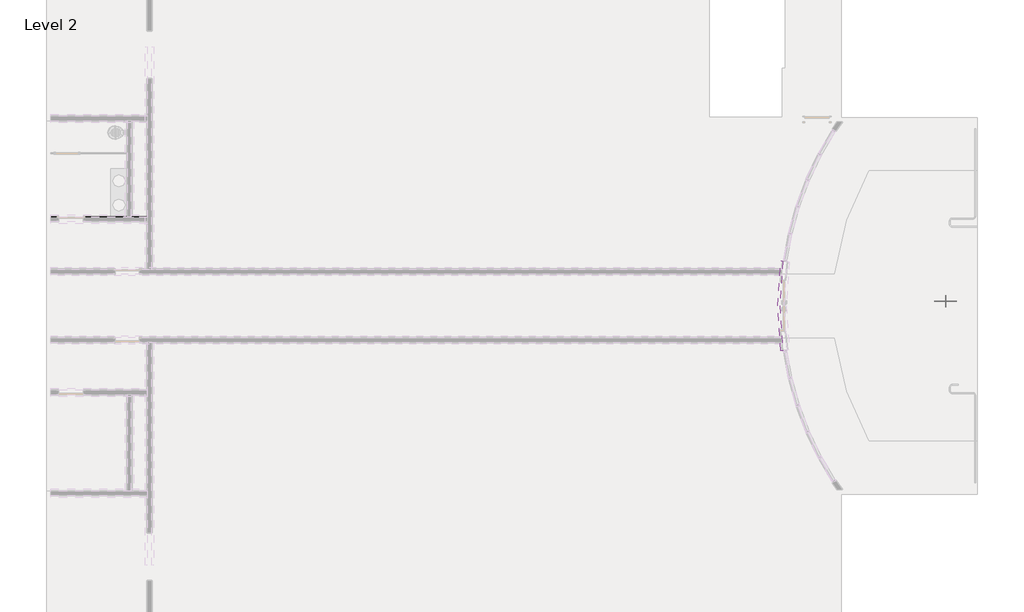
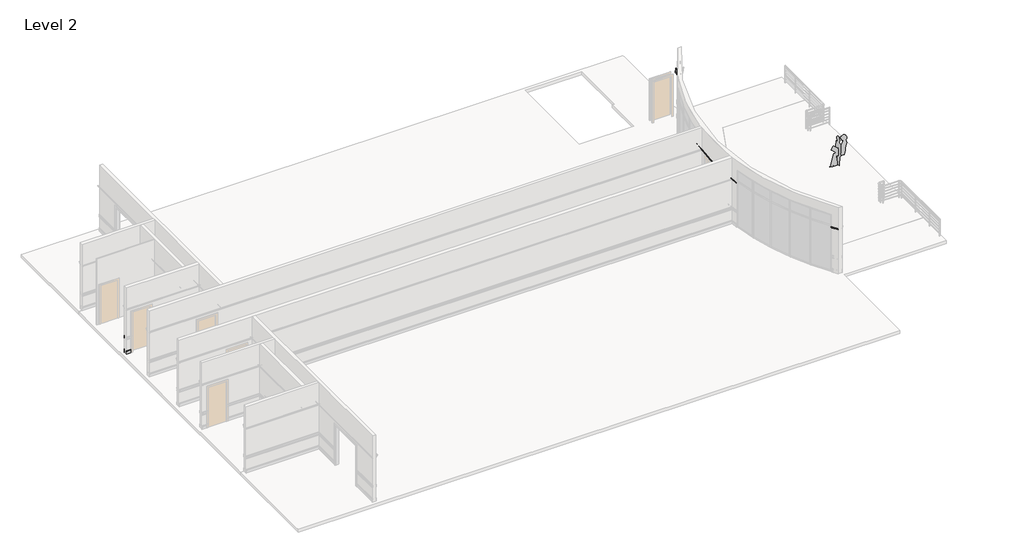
# One storey, part 13 of 14: 5 proxies.
"""IFC4 building model written with IfcOpenShell, lengths in millimetres."""

from ifc_helpers import new_model, si_unit, point, frame, frame_2d, origin, place, context, project, spatial, polyline, circle_curve, ellipse_curve, trimmed, segment, composite_curve, outline, extrude, transform, mapped, element, save
from ifc_brep_helpers import plane_surface, cylinder_surface, revolved_surface, advanced_brep
from components import rpc_female_d179ddfe

model = new_model("IFC4")

# Units and contexts
model_context = context("Model", 3, world=origin())
ifc_project = project(units=[si_unit("LENGTHUNIT", "METRE", prefix="MILLI")], contexts=[model_context])

# Site, building, storey
site = spatial("IfcSite", under=ifc_project)
building = spatial("IfcBuilding", under=site)
storey = spatial("IfcBuildingStorey", under=building, Name="Level 2", Elevation=3657.6)

# Proxies
placement = place(None, origin())
element("IfcBuildingElementProxy", 1, Name="Wall Sweeps", at=placement, inside=storey, context=model_context, shape_type="AdvancedBrep", body=[
    advanced_brep(
    [(12475.6512079, -9243.5042955, 6095.999973), (12532.7782615, -9206.2644357, 6009.4919306), (12532.7782615, -9206.2644357, 5984.875), (12526.7610008, -9210.1869545, 5984.875), (12523.4301044, -9212.358292, 5991.3297498), (12523.4301044, -9212.358292, 5995.6157037), (12517.460446, -9216.24978, 6006.0207604), (12514.4539876, -9218.2096236, 6006.0207604), (12514.4539876, -9218.2096236, 6011.0554653), (12511.750338, -9219.9720729, 6011.0554653), (12490.3915058, -9233.8954221, 6049.7194168), (12484.324516, -9237.8503583, 6054.4442936), (12472.9908167, -9245.2385456, 6073.7698146), (12472.9908167, -9245.2385456, 6079.2202934), (12470.6715241, -9246.750441, 6079.2202934), (12463.3014851, -9251.5548061, 6085.3986257), (12460.4117689, -9253.438548, 6088.8481102), (12458.3045918, -9254.81217, 6088.8481102), (12458.3045918, -9254.81217, 6095.999973), (12652.5597081, -9507.3968139, 6095.999973), (12635.5099976, -9519.1475793, 6095.999973), (12635.5099976, -9519.1475793, 6088.8481102), (12637.5811082, -9517.7201571, 6088.8481102), (12640.4213638, -9515.7626355, 6085.3986257), (12647.6652569, -9510.7700998, 6079.2202934), (12649.9448523, -9509.1989886, 6079.2202934), (12649.9448523, -9509.1989886, 6073.7698146), (12661.0845634, -9501.5214312, 6054.4442936), (12667.0477103, -9497.4115936, 6049.7194168), (12688.0409636, -9482.9429143, 6011.0554653), (12690.6983374, -9481.1114359, 6011.0554653), (12690.6983374, -9481.1114359, 6006.0207604), (12693.6533371, -9479.0748319, 6006.0207604), (12699.5208186, -9475.0309276, 5995.6157037), (12699.5208186, -9475.0309276, 5991.3297498), (12702.7947031, -9472.7745462, 5984.875), (12708.7089721, -9468.6983956, 5984.875), (12708.7089721, -9468.6983956, 6009.4919306)],
    [
        (0, 1),
        (1, 2),
        (2, 3),
        (3, 4, circle_curve(frame((12520.6846368, -9214.1480015, 5984.8589154), z_axis=(0.5460937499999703, -0.8377240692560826, 0.0), x_axis=(-0.8377240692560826, -0.5460937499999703, 0.0)), 7.2534372)),
        (4, 5),
        (5, 6, circle_curve(frame((12526.2461329, -9210.5225855, 6005.5606001), z_axis=(-0.5460937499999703, 0.8377240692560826, 0.0), x_axis=(-0.8377240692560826, -0.5460937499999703, 0.0)), 10.4976568)),
        (6, 7),
        (7, 8),
        (8, 9),
        (9, 10, circle_curve(frame((12472.4205316, -9245.6103018, 6007.8346746), z_axis=(0.5460937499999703, -0.8377240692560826, 0.0), x_axis=(-0.8377240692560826, -0.5460937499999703, 0.0)), 47.0587499)),
        (10, 11),
        (11, 12, circle_curve(frame((12491.2844878, -9233.3133069, 6074.6589994), z_axis=(-0.5460937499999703, 0.8377240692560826, 0.0), x_axis=(-0.8377240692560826, -0.5460937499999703, 0.0)), 21.8554426)),
        (12, 13),
        (13, 14),
        (14, 15, circle_curve(frame((12469.8821144, -9247.2650397, 6087.2314026), z_axis=(-0.5460937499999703, 0.8377240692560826, 0.0), x_axis=(-0.8377240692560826, -0.5460937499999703, 0.0)), 8.0663405)),
        (15, 16, circle_curve(frame((12457.1995156, -9255.5325447, 6081.5641253), z_axis=(0.5460937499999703, -0.8377240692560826, 0.0), x_axis=(-0.8377240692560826, -0.5460937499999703, 0.0)), 8.2316359)),
        (16, 17),
        (17, 18),
        (18, 0),
        (19, 20),
        (20, 21),
        (21, 22),
        (22, 23, circle_curve(frame((12634.423836, -9519.8961686, 6081.5641253), z_axis=(-0.5674823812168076, 0.8233855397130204, 0.0), x_axis=(-0.8233855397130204, -0.5674823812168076, 0.0)), 8.2316359)),
        (23, 24, circle_curve(frame((12646.8893588, -9511.3048536, 6087.2314026), z_axis=(0.5674823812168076, -0.8233855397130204, 0.0), x_axis=(-0.8233855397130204, -0.5674823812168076, 0.0)), 8.0663405)),
        (24, 25),
        (25, 26),
        (26, 27, circle_curve(frame((12667.925408, -9496.806679, 6074.6589994), z_axis=(0.5674823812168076, -0.8233855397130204, 0.0), x_axis=(-0.8233855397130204, -0.5674823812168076, 0.0)), 21.8554426)),
        (27, 28),
        (28, 29, circle_curve(frame((12649.3843283, -9509.5853052, 6007.8346746), z_axis=(-0.5674823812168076, 0.8233855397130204, 0.0), x_axis=(-0.8233855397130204, -0.5674823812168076, 0.0)), 47.0587499)),
        (29, 30),
        (30, 31),
        (31, 32),
        (32, 33, circle_curve(frame((12702.2886477, -9473.1233227, 6005.5606001), z_axis=(0.5674823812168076, -0.8233855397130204, 0.0), x_axis=(-0.8233855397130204, -0.5674823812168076, 0.0)), 10.4976568)),
        (33, 34),
        (34, 35, circle_curve(frame((12696.8223425, -9476.8907339, 5984.8589154), z_axis=(-0.5674823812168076, 0.8233855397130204, 0.0), x_axis=(-0.8233855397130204, -0.5674823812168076, 0.0)), 7.2534372)),
        (35, 36),
        (36, 37),
        (37, 19),
        (37, 1, circle_curve(frame((22811.474575, -2505.8101681, 6009.4919306), z_axis=(0.0, 0.0, -1.0), x_axis=(-0.837724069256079, -0.5460937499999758, 0.0)), 12269.7875)),
        (0, 19, circle_curve(frame((22811.474575, -2505.8101681, 6095.999973), z_axis=(0.0, 0.0, 1.0), x_axis=(-0.837724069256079, -0.5460937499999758, 0.0)), 12337.9806626)),
        (36, 2, circle_curve(frame((22811.474575, -2505.8101681, 5984.875), z_axis=(0.0, 0.0, -1.0), x_axis=(-0.837724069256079, -0.5460937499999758, 0.0)), 12269.7875)),
        (35, 3, circle_curve(frame((22811.474575, -2505.8101681, 5984.875), z_axis=(0.0, 0.0, -1.0), x_axis=(-0.837724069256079, -0.5460937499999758, 0.0)), 12276.9703672)),
        (34, 4, circle_curve(frame((22811.474575, -2505.8101681, 5991.3297498), z_axis=(0.0, 0.0, -1.0), x_axis=(-0.837724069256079, -0.5460937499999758, 0.0)), 12280.9464931)),
        (33, 5, circle_curve(frame((22811.474575, -2505.8101681, 5995.6157037), z_axis=(0.0, 0.0, -1.0), x_axis=(-0.837724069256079, -0.5460937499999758, 0.0)), 12280.9464931)),
        (32, 6, circle_curve(frame((22811.474575, -2505.8101681, 6006.0207604), z_axis=(0.0, 0.0, -1.0), x_axis=(-0.837724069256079, -0.5460937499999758, 0.0)), 12288.0725369)),
        (31, 7, circle_curve(frame((22811.474575, -2505.8101681, 6006.0207604), z_axis=(0.0, 0.0, -1.0), x_axis=(-0.837724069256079, -0.5460937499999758, 0.0)), 12291.6613778)),
        (30, 8, circle_curve(frame((22811.474575, -2505.8101681, 6011.0554653), z_axis=(0.0, 0.0, -1.0), x_axis=(-0.837724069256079, -0.5460937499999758, 0.0)), 12291.6613778)),
        (29, 9, circle_curve(frame((22811.474575, -2505.8101681, 6011.0554653), z_axis=(0.0, 0.0, -1.0), x_axis=(-0.837724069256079, -0.5460937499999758, 0.0)), 12294.8887527)),
        (28, 10, circle_curve(frame((22811.474575, -2505.8101681, 6049.7194168), z_axis=(0.0, 0.0, -1.0), x_axis=(-0.837724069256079, -0.5460937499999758, 0.0)), 12320.3850145)),
        (27, 11, circle_curve(frame((22811.474575, -2505.8101681, 6054.4442936), z_axis=(0.0, 0.0, -1.0), x_axis=(-0.837724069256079, -0.5460937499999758, 0.0)), 12327.6272438)),
        (26, 12, circle_curve(frame((22811.474575, -2505.8101681, 6073.7698146), z_axis=(0.0, 0.0, -1.0), x_axis=(-0.837724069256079, -0.5460937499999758, 0.0)), 12341.1563995)),
        (25, 13, circle_curve(frame((22811.474575, -2505.8101681, 6079.2202934), z_axis=(0.0, 0.0, -1.0), x_axis=(-0.837724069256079, -0.5460937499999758, 0.0)), 12341.1563995)),
        (24, 14, circle_curve(frame((22811.474575, -2505.8101681, 6079.2202934), z_axis=(0.0, 0.0, -1.0), x_axis=(-0.837724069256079, -0.5460937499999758, 0.0)), 12343.9249633)),
        (23, 15, circle_curve(frame((22811.474575, -2505.8101681, 6085.3986257), z_axis=(0.0, 0.0, -1.0), x_axis=(-0.837724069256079, -0.5460937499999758, 0.0)), 12352.7226561)),
        (22, 16, circle_curve(frame((22811.474575, -2505.8101681, 6088.8481102), z_axis=(0.0, 0.0, -1.0), x_axis=(-0.837724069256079, -0.5460937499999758, 0.0)), 12356.1721406)),
        (21, 17, circle_curve(frame((22811.474575, -2505.8101681, 6088.8481102), z_axis=(0.0, 0.0, -1.0), x_axis=(-0.837724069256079, -0.5460937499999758, 0.0)), 12358.6875)),
        (20, 18, circle_curve(frame((22811.474575, -2505.8101681, 6095.999973), z_axis=(0.0, 0.0, -1.0), x_axis=(-0.837724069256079, -0.5460937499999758, 0.0)), 12358.6875)),
    ],
    [
        plane_surface(frame((22811.474575, -2505.8101681, 5984.875), z_axis=(-0.5460937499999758, 0.837724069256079, 0.0), x_axis=(-0.837724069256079, -0.5460937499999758, 0.0))),
        plane_surface(frame((22811.474575, -2505.8101681, 5984.875), z_axis=(0.5674823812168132, -0.8233855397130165, 0.0), x_axis=(-0.8233855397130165, -0.5674823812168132, 0.0))),
        revolved_surface(polyline([(12475.6512079, -9243.5042955, 6095.999973), (12532.7782615, -9206.2644357, 6009.4919306)]), (22811.474575, -2505.8101681, 5984.875), (0.0, 0.0, 1.0)),
        revolved_surface(polyline([(12532.778261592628, -9206.26443567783, 6009.4919306), (12532.778261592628, -9206.26443567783, 5984.875)]), (22811.474575, -2505.8101681, 5984.875), (0.0, 0.0, 1.0)),
        plane_surface(frame((22811.474575, -2505.8101681, 5984.875), z_axis=(0.0, 0.0, -1.0), x_axis=(-0.837724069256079, -0.5460937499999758, 0.0))),
        revolved_surface(trimmed(ellipse_curve(frame((12520.6846368, -9214.1480015, 5984.8589154), z_axis=(0.5460937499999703, -0.8377240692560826, 0.0), x_axis=(-0.8377240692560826, -0.5460937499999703, 0.0)), 7.2534372, 7.2534372), [point((12526.7610008, -9210.1869545, 5984.875))], [point((12523.4301044, -9212.358292, 5991.3297498))], True, "CARTESIAN"), (22811.474575, -2505.8101681, 5984.875), (0.0, 0.0, 1.0)),
        cylinder_surface(frame((22811.474575, -2505.8101681, 5984.875), z_axis=(0.0, 0.0, 1.0), x_axis=(-0.837724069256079, -0.5460937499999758, 0.0)), 12280.9464931),
        revolved_surface(trimmed(ellipse_curve(frame((12526.2461329, -9210.5225855, 6005.5606001), z_axis=(-0.5460937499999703, 0.8377240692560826, 0.0), x_axis=(-0.8377240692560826, -0.5460937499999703, 0.0)), 10.4976568, 10.4976568), [point((12523.4301044, -9212.358292, 5995.6157037))], [point((12517.460446, -9216.24978, 6006.0207604))], True, "CARTESIAN"), (22811.474575, -2505.8101681, 5984.875), (0.0, 0.0, 1.0)),
        plane_surface(frame((22811.474575, -2505.8101681, 6006.0207604), z_axis=(0.0, 0.0, -1.0), x_axis=(-0.837724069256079, -0.5460937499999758, 0.0))),
        cylinder_surface(frame((22811.474575, -2505.8101681, 5984.875), z_axis=(0.0, 0.0, 1.0), x_axis=(-0.837724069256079, -0.5460937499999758, 0.0)), 12291.6613778),
        plane_surface(frame((22811.474575, -2505.8101681, 6011.0554653), z_axis=(0.0, 0.0, -1.0), x_axis=(-0.837724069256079, -0.5460937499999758, 0.0))),
        revolved_surface(trimmed(ellipse_curve(frame((12472.4205316, -9245.6103018, 6007.8346746), z_axis=(0.5460937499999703, -0.8377240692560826, 0.0), x_axis=(-0.8377240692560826, -0.5460937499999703, 0.0)), 47.0587499, 47.0587499), [point((12511.750338, -9219.9720729, 6011.0554653))], [point((12490.3915058, -9233.8954221, 6049.7194168))], True, "CARTESIAN"), (22811.474575, -2505.8101681, 5984.875), (0.0, 0.0, 1.0)),
        revolved_surface(polyline([(12490.3915058, -9233.8954221, 6049.7194168), (12484.324516, -9237.8503583, 6054.4442936)]), (22811.474575, -2505.8101681, 5984.875), (0.0, 0.0, 1.0)),
        revolved_surface(trimmed(ellipse_curve(frame((12491.2844878, -9233.3133069, 6074.6589994), z_axis=(-0.5460937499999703, 0.8377240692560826, 0.0), x_axis=(-0.8377240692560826, -0.5460937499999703, 0.0)), 21.8554426, 21.8554426), [point((12484.324516, -9237.8503583, 6054.4442936))], [point((12472.9908167, -9245.2385456, 6073.7698146))], True, "CARTESIAN"), (22811.474575, -2505.8101681, 5984.875), (0.0, 0.0, 1.0)),
        cylinder_surface(frame((22811.474575, -2505.8101681, 5984.875), z_axis=(0.0, 0.0, 1.0), x_axis=(-0.837724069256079, -0.5460937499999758, 0.0)), 12341.1563995),
        plane_surface(frame((22811.474575, -2505.8101681, 6079.2202934), z_axis=(0.0, 0.0, -1.0), x_axis=(-0.837724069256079, -0.5460937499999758, 0.0))),
        revolved_surface(trimmed(ellipse_curve(frame((12469.8821144, -9247.2650397, 6087.2314026), z_axis=(-0.5460937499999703, 0.8377240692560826, 0.0), x_axis=(-0.8377240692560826, -0.5460937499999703, 0.0)), 8.0663405, 8.0663405), [point((12470.6715241, -9246.750441, 6079.2202934))], [point((12463.3014851, -9251.5548061, 6085.3986257))], True, "CARTESIAN"), (22811.474575, -2505.8101681, 5984.875), (0.0, 0.0, 1.0)),
        revolved_surface(trimmed(ellipse_curve(frame((12457.1995156, -9255.5325447, 6081.5641253), z_axis=(0.5460937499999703, -0.8377240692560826, 0.0), x_axis=(-0.8377240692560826, -0.5460937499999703, 0.0)), 8.2316359, 8.2316359), [point((12463.3014851, -9251.5548061, 6085.3986257))], [point((12460.4117689, -9253.438548, 6088.8481102))], True, "CARTESIAN"), (22811.474575, -2505.8101681, 5984.875), (0.0, 0.0, 1.0)),
        plane_surface(frame((22811.474575, -2505.8101681, 6088.8481102), z_axis=(0.0, 0.0, -1.0), x_axis=(-0.837724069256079, -0.5460937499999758, 0.0))),
        cylinder_surface(frame((22811.474575, -2505.8101681, 5984.875), z_axis=(0.0, 0.0, 1.0), x_axis=(-0.837724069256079, -0.5460937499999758, 0.0)), 12358.6875),
        plane_surface(frame((22811.474575, -2505.8101681, 6095.999973), z_axis=(0.0, 0.0, 1.0), x_axis=(-0.837724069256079, -0.5460937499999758, 0.0))),
    ],
    [
        (0, [[1, 2, 3, 4, 5, 6, 7, 8, 9, 10, 11, 12, 13, 14, 15, 16, 17, 18, 19]]),
        (1, [[20, 21, 22, 23, 24, 25, 26, 27, 28, 29, 30, 31, 32, 33, 34, 35, 36, 37, 38]]),
        (2, [[39, -1, 40, -38]]),
        (3, [[41, -2, -39, -37]]),
        (4, [[42, -3, -41, -36]]),
        (5, [[43, -4, -42, -35]]),
        (6, [[44, -5, -43, -34]]),
        (7, [[45, -6, -44, -33]]),
        (8, [[46, -7, -45, -32]]),
        (9, [[47, -8, -46, -31]]),
        (10, [[48, -9, -47, -30]]),
        (11, [[49, -10, -48, -29]]),
        (12, [[50, -11, -49, -28]]),
        (13, [[51, -12, -50, -27]]),
        (14, [[52, -13, -51, -26]]),
        (15, [[53, -14, -52, -25]]),
        (16, [[54, -15, -53, -24]]),
        (17, [[55, -16, -54, -23]]),
        (18, [[56, -17, -55, -22]]),
        (19, [[57, -18, -56, -21]]),
        (20, [[-40, -19, -57, -20]]),
    ],
),
    advanced_brep(
    [(10591.1293868, -806.1248112, 6095.999973), (10658.6723672, -815.5191297, 6009.4919306), (10658.6723672, -815.5191297, 5984.875), (10651.5579845, -814.5296149, 5984.875), (10647.6197686, -813.9818621, 5991.3297498), (10647.6197686, -813.9818621, 5995.6157037), (10640.5616675, -813.0001754, 6006.0207604), (10637.0070441, -812.5057751, 6006.0207604), (10637.0070441, -812.5057751, 6011.0554653), (10633.8104403, -812.0611706, 6011.0554653), (10608.5572706, -808.548795, 6049.7194168), (10601.3840917, -807.5511025, 6054.4442936), (10587.9839287, -805.6873203, 6073.7698146), (10587.9839287, -805.6873203, 6079.2202934), (10585.2417616, -805.3059218, 6079.2202934), (10576.5279496, -804.093948, 6085.3986257), (10573.1113539, -803.6187456, 6088.8481102), (10570.619977, -803.2722286, 6088.8481102), (10570.619977, -803.2722286, 6095.999973), (10591.1293868, -4205.495525, 6095.999973), (10570.619977, -4208.3481075, 6095.999973), (10570.619977, -4208.3481075, 6088.8481102), (10573.1113539, -4208.0015906, 6088.8481102), (10576.5279496, -4207.5263882, 6085.3986257), (10585.2417616, -4206.3144143, 6079.2202934), (10587.9839287, -4205.9330158, 6079.2202934), (10587.9839287, -4205.9330158, 6073.7698146), (10601.3840917, -4204.0692337, 6054.4442936), (10608.5572706, -4203.0715412, 6049.7194168), (10633.8104403, -4199.5591655, 6011.0554653), (10637.0070441, -4199.114561, 6011.0554653), (10637.0070441, -4199.114561, 6006.0207604), (10640.5616675, -4198.6201608, 6006.0207604), (10647.6197686, -4197.638474, 5995.6157037), (10647.6197686, -4197.638474, 5991.3297498), (10651.5579845, -4197.0907213, 5984.875), (10658.6723672, -4196.1012065, 5984.875), (10658.6723672, -4196.1012065, 6009.4919306)],
    [
        (0, 1),
        (1, 2),
        (2, 3),
        (3, 4, circle_curve(frame((10644.3737222, -813.5303808, 5984.8589154), z_axis=(-0.13776041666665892, -0.9904655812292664, 0.0), x_axis=(-0.9904655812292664, 0.13776041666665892, 0.0)), 7.2534372)),
        (4, 5),
        (5, 6, circle_curve(frame((10650.9492411, -814.4449469, 6005.5606001), z_axis=(0.13776041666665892, 0.9904655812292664, 0.0), x_axis=(-0.9904655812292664, 0.13776041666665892, 0.0)), 10.4976568)),
        (6, 7),
        (7, 8),
        (8, 9),
        (9, 10, circle_curve(frame((10587.3096641, -805.5935392, 6007.8346746), z_axis=(-0.13776041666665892, -0.9904655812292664, 0.0), x_axis=(-0.9904655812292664, 0.13776041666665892, 0.0)), 47.0587499)),
        (10, 11),
        (11, 12, circle_curve(frame((10609.6130692, -808.6956423, 6074.6589994), z_axis=(0.13776041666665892, 0.9904655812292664, 0.0), x_axis=(-0.9904655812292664, 0.13776041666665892, 0.0)), 21.8554426)),
        (12, 13),
        (13, 14),
        (14, 15, circle_curve(frame((10584.3084194, -805.1761065, 6087.2314026), z_axis=(0.13776041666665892, 0.9904655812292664, 0.0), x_axis=(-0.9904655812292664, 0.13776041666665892, 0.0)), 8.0663405)),
        (15, 16, circle_curve(frame((10569.3134132, -803.0905032, 6081.5641253), z_axis=(-0.13776041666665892, -0.9904655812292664, 0.0), x_axis=(-0.9904655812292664, 0.13776041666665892, 0.0)), 8.2316359)),
        (16, 17),
        (17, 18),
        (18, 0),
        (19, 20),
        (20, 21),
        (21, 22),
        (22, 23, circle_curve(frame((10569.3134132, -4208.5298329, 6081.5641253), z_axis=(-0.13776041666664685, 0.9904655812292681, 0.0), x_axis=(-0.9904655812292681, -0.13776041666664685, 0.0)), 8.2316359)),
        (23, 24, circle_curve(frame((10584.3084194, -4206.4442296, 6087.2314026), z_axis=(0.13776041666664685, -0.9904655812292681, 0.0), x_axis=(-0.9904655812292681, -0.13776041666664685, 0.0)), 8.0663405)),
        (24, 25),
        (25, 26),
        (26, 27, circle_curve(frame((10609.6130692, -4202.9246938, 6074.6589994), z_axis=(0.13776041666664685, -0.9904655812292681, 0.0), x_axis=(-0.9904655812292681, -0.13776041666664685, 0.0)), 21.8554426)),
        (27, 28),
        (28, 29, circle_curve(frame((10587.3096641, -4206.0267969, 6007.8346746), z_axis=(-0.13776041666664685, 0.9904655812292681, 0.0), x_axis=(-0.9904655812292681, -0.13776041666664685, 0.0)), 47.0587499)),
        (29, 30),
        (30, 31),
        (31, 32),
        (32, 33, circle_curve(frame((10650.9492411, -4197.1753893, 6005.5606001), z_axis=(0.13776041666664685, -0.9904655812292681, 0.0), x_axis=(-0.9904655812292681, -0.13776041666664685, 0.0)), 10.4976568)),
        (33, 34),
        (34, 35, circle_curve(frame((10644.3737222, -4198.0899553, 5984.8589154), z_axis=(-0.13776041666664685, 0.9904655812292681, 0.0), x_axis=(-0.9904655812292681, -0.13776041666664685, 0.0)), 7.2534372)),
        (35, 36),
        (36, 37),
        (37, 19),
        (37, 1, circle_curve(frame((22811.474575, -2505.8101681, 6009.4919306), z_axis=(0.0, 0.0, -1.0), x_axis=(-0.9904655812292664, 0.13776041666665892, 0.0)), 12269.7875)),
        (0, 19, circle_curve(frame((22811.474575, -2505.8101681, 6095.999973), z_axis=(0.0, 0.0, 1.0), x_axis=(-0.9904655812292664, 0.13776041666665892, 0.0)), 12337.9806626)),
        (36, 2, circle_curve(frame((22811.474575, -2505.8101681, 5984.875), z_axis=(0.0, 0.0, -1.0), x_axis=(-0.9904655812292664, 0.13776041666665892, 0.0)), 12269.7875)),
        (35, 3, circle_curve(frame((22811.474575, -2505.8101681, 5984.875), z_axis=(0.0, 0.0, -1.0), x_axis=(-0.9904655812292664, 0.13776041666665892, 0.0)), 12276.9703672)),
        (34, 4, circle_curve(frame((22811.474575, -2505.8101681, 5991.3297498), z_axis=(0.0, 0.0, -1.0), x_axis=(-0.9904655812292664, 0.13776041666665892, 0.0)), 12280.9464931)),
        (33, 5, circle_curve(frame((22811.474575, -2505.8101681, 5995.6157037), z_axis=(0.0, 0.0, -1.0), x_axis=(-0.9904655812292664, 0.13776041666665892, 0.0)), 12280.9464931)),
        (32, 6, circle_curve(frame((22811.474575, -2505.8101681, 6006.0207604), z_axis=(0.0, 0.0, -1.0), x_axis=(-0.9904655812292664, 0.13776041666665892, 0.0)), 12288.0725369)),
        (31, 7, circle_curve(frame((22811.474575, -2505.8101681, 6006.0207604), z_axis=(0.0, 0.0, -1.0), x_axis=(-0.9904655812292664, 0.13776041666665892, 0.0)), 12291.6613778)),
        (30, 8, circle_curve(frame((22811.474575, -2505.8101681, 6011.0554653), z_axis=(0.0, 0.0, -1.0), x_axis=(-0.9904655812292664, 0.13776041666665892, 0.0)), 12291.6613778)),
        (29, 9, circle_curve(frame((22811.474575, -2505.8101681, 6011.0554653), z_axis=(0.0, 0.0, -1.0), x_axis=(-0.9904655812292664, 0.13776041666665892, 0.0)), 12294.8887527)),
        (28, 10, circle_curve(frame((22811.474575, -2505.8101681, 6049.7194168), z_axis=(0.0, 0.0, -1.0), x_axis=(-0.9904655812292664, 0.13776041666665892, 0.0)), 12320.3850145)),
        (27, 11, circle_curve(frame((22811.474575, -2505.8101681, 6054.4442936), z_axis=(0.0, 0.0, -1.0), x_axis=(-0.9904655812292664, 0.13776041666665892, 0.0)), 12327.6272438)),
        (26, 12, circle_curve(frame((22811.474575, -2505.8101681, 6073.7698146), z_axis=(0.0, 0.0, -1.0), x_axis=(-0.9904655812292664, 0.13776041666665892, 0.0)), 12341.1563995)),
        (25, 13, circle_curve(frame((22811.474575, -2505.8101681, 6079.2202934), z_axis=(0.0, 0.0, -1.0), x_axis=(-0.9904655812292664, 0.13776041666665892, 0.0)), 12341.1563995)),
        (24, 14, circle_curve(frame((22811.474575, -2505.8101681, 6079.2202934), z_axis=(0.0, 0.0, -1.0), x_axis=(-0.9904655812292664, 0.13776041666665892, 0.0)), 12343.9249633)),
        (23, 15, circle_curve(frame((22811.474575, -2505.8101681, 6085.3986257), z_axis=(0.0, 0.0, -1.0), x_axis=(-0.9904655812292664, 0.13776041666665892, 0.0)), 12352.7226561)),
        (22, 16, circle_curve(frame((22811.474575, -2505.8101681, 6088.8481102), z_axis=(0.0, 0.0, -1.0), x_axis=(-0.9904655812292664, 0.13776041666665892, 0.0)), 12356.1721406)),
        (21, 17, circle_curve(frame((22811.474575, -2505.8101681, 6088.8481102), z_axis=(0.0, 0.0, -1.0), x_axis=(-0.9904655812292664, 0.13776041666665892, 0.0)), 12358.6875)),
        (20, 18, circle_curve(frame((22811.474575, -2505.8101681, 6095.999973), z_axis=(0.0, 0.0, -1.0), x_axis=(-0.9904655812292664, 0.13776041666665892, 0.0)), 12358.6875)),
    ],
    [
        plane_surface(frame((22811.474575, -2505.8101681, 5984.875), z_axis=(0.13776041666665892, 0.9904655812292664, 0.0), x_axis=(-0.9904655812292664, 0.13776041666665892, 0.0))),
        plane_surface(frame((22811.474575, -2505.8101681, 5984.875), z_axis=(0.13776041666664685, -0.9904655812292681, 0.0), x_axis=(-0.9904655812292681, -0.13776041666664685, 0.0))),
        revolved_surface(polyline([(10591.1293868, -806.1248112, 6095.999973), (10658.6723672, -815.5191297, 6009.4919306)]), (22811.474575, -2505.8101681, 5984.875), (0.0, 0.0, 1.0)),
        revolved_surface(polyline([(10658.672367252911, -815.5191296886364, 6009.4919306), (10658.672367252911, -815.5191296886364, 5984.875)]), (22811.474575, -2505.8101681, 5984.875), (0.0, 0.0, 1.0)),
        plane_surface(frame((22811.474575, -2505.8101681, 5984.875), z_axis=(0.0, 0.0, -1.0), x_axis=(-0.9904655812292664, 0.13776041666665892, 0.0))),
        revolved_surface(trimmed(ellipse_curve(frame((10644.3737222, -813.5303808, 5984.8589154), z_axis=(-0.13776041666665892, -0.9904655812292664, 0.0), x_axis=(-0.9904655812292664, 0.13776041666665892, 0.0)), 7.2534372, 7.2534372), [point((10651.5579845, -814.5296149, 5984.875))], [point((10647.6197686, -813.9818621, 5991.3297498))], True, "CARTESIAN"), (22811.474575, -2505.8101681, 5984.875), (0.0, 0.0, 1.0)),
        cylinder_surface(frame((22811.474575, -2505.8101681, 5984.875), z_axis=(0.0, 0.0, 1.0), x_axis=(-0.9904655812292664, 0.13776041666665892, 0.0)), 12280.9464931),
        revolved_surface(trimmed(ellipse_curve(frame((10650.9492411, -814.4449469, 6005.5606001), z_axis=(0.13776041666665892, 0.9904655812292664, 0.0), x_axis=(-0.9904655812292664, 0.13776041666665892, 0.0)), 10.4976568, 10.4976568), [point((10647.6197686, -813.9818621, 5995.6157037))], [point((10640.5616675, -813.0001754, 6006.0207604))], True, "CARTESIAN"), (22811.474575, -2505.8101681, 5984.875), (0.0, 0.0, 1.0)),
        plane_surface(frame((22811.474575, -2505.8101681, 6006.0207604), z_axis=(0.0, 0.0, -1.0), x_axis=(-0.9904655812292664, 0.13776041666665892, 0.0))),
        cylinder_surface(frame((22811.474575, -2505.8101681, 5984.875), z_axis=(0.0, 0.0, 1.0), x_axis=(-0.9904655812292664, 0.13776041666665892, 0.0)), 12291.6613778),
        plane_surface(frame((22811.474575, -2505.8101681, 6011.0554653), z_axis=(0.0, 0.0, -1.0), x_axis=(-0.9904655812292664, 0.13776041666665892, 0.0))),
        revolved_surface(trimmed(ellipse_curve(frame((10587.3096641, -805.5935392, 6007.8346746), z_axis=(-0.13776041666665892, -0.9904655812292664, 0.0), x_axis=(-0.9904655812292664, 0.13776041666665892, 0.0)), 47.0587499, 47.0587499), [point((10633.8104403, -812.0611706, 6011.0554653))], [point((10608.5572706, -808.548795, 6049.7194168))], True, "CARTESIAN"), (22811.474575, -2505.8101681, 5984.875), (0.0, 0.0, 1.0)),
        revolved_surface(polyline([(10608.5572706, -808.548795, 6049.7194168), (10601.3840917, -807.5511025, 6054.4442936)]), (22811.474575, -2505.8101681, 5984.875), (0.0, 0.0, 1.0)),
        revolved_surface(trimmed(ellipse_curve(frame((10609.6130692, -808.6956423, 6074.6589994), z_axis=(0.13776041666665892, 0.9904655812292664, 0.0), x_axis=(-0.9904655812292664, 0.13776041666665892, 0.0)), 21.8554426, 21.8554426), [point((10601.3840917, -807.5511025, 6054.4442936))], [point((10587.9839287, -805.6873203, 6073.7698146))], True, "CARTESIAN"), (22811.474575, -2505.8101681, 5984.875), (0.0, 0.0, 1.0)),
        cylinder_surface(frame((22811.474575, -2505.8101681, 5984.875), z_axis=(0.0, 0.0, 1.0), x_axis=(-0.9904655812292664, 0.13776041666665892, 0.0)), 12341.1563995),
        plane_surface(frame((22811.474575, -2505.8101681, 6079.2202934), z_axis=(0.0, 0.0, -1.0), x_axis=(-0.9904655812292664, 0.13776041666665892, 0.0))),
        revolved_surface(trimmed(ellipse_curve(frame((10584.3084194, -805.1761065, 6087.2314026), z_axis=(0.13776041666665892, 0.9904655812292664, 0.0), x_axis=(-0.9904655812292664, 0.13776041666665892, 0.0)), 8.0663405, 8.0663405), [point((10585.2417616, -805.3059218, 6079.2202934))], [point((10576.5279496, -804.093948, 6085.3986257))], True, "CARTESIAN"), (22811.474575, -2505.8101681, 5984.875), (0.0, 0.0, 1.0)),
        revolved_surface(trimmed(ellipse_curve(frame((10569.3134132, -803.0905032, 6081.5641253), z_axis=(-0.13776041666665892, -0.9904655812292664, 0.0), x_axis=(-0.9904655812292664, 0.13776041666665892, 0.0)), 8.2316359, 8.2316359), [point((10576.5279496, -804.093948, 6085.3986257))], [point((10573.1113539, -803.6187456, 6088.8481102))], True, "CARTESIAN"), (22811.474575, -2505.8101681, 5984.875), (0.0, 0.0, 1.0)),
        plane_surface(frame((22811.474575, -2505.8101681, 6088.8481102), z_axis=(0.0, 0.0, -1.0), x_axis=(-0.9904655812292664, 0.13776041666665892, 0.0))),
        cylinder_surface(frame((22811.474575, -2505.8101681, 5984.875), z_axis=(0.0, 0.0, 1.0), x_axis=(-0.9904655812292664, 0.13776041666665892, 0.0)), 12358.6875),
        plane_surface(frame((22811.474575, -2505.8101681, 6095.999973), z_axis=(0.0, 0.0, 1.0), x_axis=(-0.9904655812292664, 0.13776041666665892, 0.0))),
    ],
    [
        (0, [[1, 2, 3, 4, 5, 6, 7, 8, 9, 10, 11, 12, 13, 14, 15, 16, 17, 18, 19]]),
        (1, [[20, 21, 22, 23, 24, 25, 26, 27, 28, 29, 30, 31, 32, 33, 34, 35, 36, 37, 38]]),
        (2, [[39, -1, 40, -38]]),
        (3, [[41, -2, -39, -37]]),
        (4, [[42, -3, -41, -36]]),
        (5, [[43, -4, -42, -35]]),
        (6, [[44, -5, -43, -34]]),
        (7, [[45, -6, -44, -33]]),
        (8, [[46, -7, -45, -32]]),
        (9, [[47, -8, -46, -31]]),
        (10, [[48, -9, -47, -30]]),
        (11, [[49, -10, -48, -29]]),
        (12, [[50, -11, -49, -28]]),
        (13, [[51, -12, -50, -27]]),
        (14, [[52, -13, -51, -26]]),
        (15, [[53, -14, -52, -25]]),
        (16, [[54, -15, -53, -24]]),
        (17, [[55, -16, -54, -23]]),
        (18, [[56, -17, -55, -22]]),
        (19, [[57, -18, -56, -21]]),
        (20, [[-40, -19, -57, -20]]),
    ],
),
    advanced_brep(
    [(12652.4812383, 4495.6626209, 6095.999973), (12708.6309359, 4456.9648319, 6009.4919306), (12708.6309359, 4456.9648319, 5984.875), (12702.7166213, 4461.0409162, 5984.875), (12699.4427114, 4463.2972609, 5991.3297498), (12699.4427114, 4463.2972609, 5995.6157037), (12693.5751847, 4467.3410995, 6006.0207604), (12690.6201621, 4469.3776703, 6006.0207604), (12690.6201621, 4469.3776703, 6011.0554653), (12687.9627678, 4471.209119, 6011.0554653), (12666.9693523, 4485.677563, 6049.7194168), (12661.0061594, 4489.7873337, 6054.4442936), (12649.8663622, 4497.4647663, 6073.7698146), (12649.8663622, 4497.4647663, 6079.2202934), (12647.5867492, 4499.035852, 6079.2202934), (12640.3428002, 4504.0283065, 6085.3986257), (12637.5025226, 4505.9857963, 6088.8481102), (12635.431396, 4507.4131952, 6088.8481102), (12635.431396, 4507.4131952, 6095.999973), (12475.6512079, 4231.8839594, 6095.999973), (12458.3045918, 4243.1918339, 6095.999973), (12458.3045918, 4243.1918339, 6088.8481102), (12460.4117689, 4241.8182118, 6088.8481102), (12463.3014851, 4239.9344699, 6085.3986257), (12470.6715241, 4235.1301048, 6079.2202934), (12472.9908167, 4233.6182095, 6079.2202934), (12472.9908167, 4233.6182095, 6073.7698146), (12484.324516, 4226.2300221, 6054.4442936), (12490.3915058, 4222.275086, 6049.7194168), (12511.750338, 4208.3517367, 6011.0554653), (12514.4539876, 4206.5892875, 6011.0554653), (12514.4539876, 4206.5892875, 6006.0207604), (12517.460446, 4204.6294439, 6006.0207604), (12523.4301044, 4200.7379559, 5995.6157037), (12523.4301044, 4200.7379559, 5991.3297498), (12526.7610008, 4198.5666184, 5984.875), (12532.7782615, 4194.6440995, 5984.875), (12532.7782615, 4194.6440995, 6009.4919306)],
    [
        (0, 1),
        (1, 2),
        (2, 3),
        (3, 4, circle_curve(frame((12696.7442145, 4465.157037, 5984.8589154), z_axis=(-0.5674731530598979, -0.8233918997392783, 0.0), x_axis=(-0.8233918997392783, 0.5674731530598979, 0.0)), 7.2534372)),
        (4, 5),
        (5, 6, circle_curve(frame((12702.2105619, 4461.3896871, 6005.5606001), z_axis=(0.5674731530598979, 0.8233918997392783, 0.0), x_axis=(-0.8233918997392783, 0.5674731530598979, 0.0)), 10.4976568)),
        (6, 7),
        (7, 8),
        (8, 9),
        (9, 10, circle_curve(frame((12649.3058339, 4497.8510767, 6007.8346746), z_axis=(-0.5674731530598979, -0.8233918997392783, 0.0), x_axis=(-0.8233918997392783, 0.5674731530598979, 0.0)), 47.0587499)),
        (10, 11),
        (11, 12, circle_curve(frame((12667.8470568, 4485.0726582, 6074.6589994), z_axis=(0.5674731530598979, 0.8233918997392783, 0.0), x_axis=(-0.8233918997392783, 0.5674731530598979, 0.0)), 21.8554426)),
        (12, 13),
        (13, 14),
        (14, 15, circle_curve(frame((12646.8108451, 4499.570597, 6087.2314026), z_axis=(0.5674731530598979, 0.8233918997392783, 0.0), x_axis=(-0.8233918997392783, 0.5674731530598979, 0.0)), 8.0663405)),
        (15, 16, circle_curve(frame((12634.345226, 4508.1617724, 6081.5641253), z_axis=(-0.5674731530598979, -0.8233918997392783, 0.0), x_axis=(-0.8233918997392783, 0.5674731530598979, 0.0)), 8.2316359)),
        (16, 17),
        (17, 18),
        (18, 0),
        (19, 20),
        (20, 21),
        (21, 22),
        (22, 23, circle_curve(frame((12457.1995156, 4243.9122086, 6081.5641253), z_axis=(0.5460937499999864, 0.837724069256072, 0.0), x_axis=(-0.837724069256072, 0.5460937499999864, 0.0)), 8.2316359)),
        (23, 24, circle_curve(frame((12469.8821144, 4235.6447035, 6087.2314026), z_axis=(-0.5460937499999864, -0.837724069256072, 0.0), x_axis=(-0.837724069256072, 0.5460937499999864, 0.0)), 8.0663405)),
        (24, 25),
        (25, 26),
        (26, 27, circle_curve(frame((12491.2844878, 4221.6929708, 6074.6589994), z_axis=(-0.5460937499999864, -0.837724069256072, 0.0), x_axis=(-0.837724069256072, 0.5460937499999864, 0.0)), 21.8554426)),
        (27, 28),
        (28, 29, circle_curve(frame((12472.4205316, 4233.9899656, 6007.8346746), z_axis=(0.5460937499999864, 0.837724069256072, 0.0), x_axis=(-0.837724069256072, 0.5460937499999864, 0.0)), 47.0587499)),
        (29, 30),
        (30, 31),
        (31, 32),
        (32, 33, circle_curve(frame((12526.2461329, 4198.9022494, 6005.5606001), z_axis=(-0.5460937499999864, -0.837724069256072, 0.0), x_axis=(-0.837724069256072, 0.5460937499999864, 0.0)), 10.4976568)),
        (33, 34),
        (34, 35, circle_curve(frame((12520.6846368, 4202.5276654, 5984.8589154), z_axis=(0.5460937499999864, 0.837724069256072, 0.0), x_axis=(-0.837724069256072, 0.5460937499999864, 0.0)), 7.2534372)),
        (35, 36),
        (36, 37),
        (37, 19),
        (37, 1, circle_curve(frame((22811.474575, -2505.8101681, 6009.4919306), z_axis=(0.0, 0.0, -1.0), x_axis=(-0.8233918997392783, 0.5674731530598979, 0.0)), 12269.7875)),
        (0, 19, circle_curve(frame((22811.474575, -2505.8101681, 6095.999973), z_axis=(0.0, 0.0, 1.0), x_axis=(-0.8233918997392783, 0.5674731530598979, 0.0)), 12337.9806626)),
        (36, 2, circle_curve(frame((22811.474575, -2505.8101681, 5984.875), z_axis=(0.0, 0.0, -1.0), x_axis=(-0.8233918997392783, 0.5674731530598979, 0.0)), 12269.7875)),
        (35, 3, circle_curve(frame((22811.474575, -2505.8101681, 5984.875), z_axis=(0.0, 0.0, -1.0), x_axis=(-0.8233918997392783, 0.5674731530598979, 0.0)), 12276.9703672)),
        (34, 4, circle_curve(frame((22811.474575, -2505.8101681, 5991.3297498), z_axis=(0.0, 0.0, -1.0), x_axis=(-0.8233918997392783, 0.5674731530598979, 0.0)), 12280.9464931)),
        (33, 5, circle_curve(frame((22811.474575, -2505.8101681, 5995.6157037), z_axis=(0.0, 0.0, -1.0), x_axis=(-0.8233918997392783, 0.5674731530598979, 0.0)), 12280.9464931)),
        (32, 6, circle_curve(frame((22811.474575, -2505.8101681, 6006.0207604), z_axis=(0.0, 0.0, -1.0), x_axis=(-0.8233918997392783, 0.5674731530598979, 0.0)), 12288.0725369)),
        (31, 7, circle_curve(frame((22811.474575, -2505.8101681, 6006.0207604), z_axis=(0.0, 0.0, -1.0), x_axis=(-0.8233918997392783, 0.5674731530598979, 0.0)), 12291.6613778)),
        (30, 8, circle_curve(frame((22811.474575, -2505.8101681, 6011.0554653), z_axis=(0.0, 0.0, -1.0), x_axis=(-0.8233918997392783, 0.5674731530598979, 0.0)), 12291.6613778)),
        (29, 9, circle_curve(frame((22811.474575, -2505.8101681, 6011.0554653), z_axis=(0.0, 0.0, -1.0), x_axis=(-0.8233918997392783, 0.5674731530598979, 0.0)), 12294.8887527)),
        (28, 10, circle_curve(frame((22811.474575, -2505.8101681, 6049.7194168), z_axis=(0.0, 0.0, -1.0), x_axis=(-0.8233918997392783, 0.5674731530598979, 0.0)), 12320.3850145)),
        (27, 11, circle_curve(frame((22811.474575, -2505.8101681, 6054.4442936), z_axis=(0.0, 0.0, -1.0), x_axis=(-0.8233918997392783, 0.5674731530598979, 0.0)), 12327.6272438)),
        (26, 12, circle_curve(frame((22811.474575, -2505.8101681, 6073.7698146), z_axis=(0.0, 0.0, -1.0), x_axis=(-0.8233918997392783, 0.5674731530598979, 0.0)), 12341.1563995)),
        (25, 13, circle_curve(frame((22811.474575, -2505.8101681, 6079.2202934), z_axis=(0.0, 0.0, -1.0), x_axis=(-0.8233918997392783, 0.5674731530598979, 0.0)), 12341.1563995)),
        (24, 14, circle_curve(frame((22811.474575, -2505.8101681, 6079.2202934), z_axis=(0.0, 0.0, -1.0), x_axis=(-0.8233918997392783, 0.5674731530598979, 0.0)), 12343.9249633)),
        (23, 15, circle_curve(frame((22811.474575, -2505.8101681, 6085.3986257), z_axis=(0.0, 0.0, -1.0), x_axis=(-0.8233918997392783, 0.5674731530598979, 0.0)), 12352.7226561)),
        (22, 16, circle_curve(frame((22811.474575, -2505.8101681, 6088.8481102), z_axis=(0.0, 0.0, -1.0), x_axis=(-0.8233918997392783, 0.5674731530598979, 0.0)), 12356.1721406)),
        (21, 17, circle_curve(frame((22811.474575, -2505.8101681, 6088.8481102), z_axis=(0.0, 0.0, -1.0), x_axis=(-0.8233918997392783, 0.5674731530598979, 0.0)), 12358.6875)),
        (20, 18, circle_curve(frame((22811.474575, -2505.8101681, 6095.999973), z_axis=(0.0, 0.0, -1.0), x_axis=(-0.8233918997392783, 0.5674731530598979, 0.0)), 12358.6875)),
    ],
    [
        plane_surface(frame((22811.474575, -2505.8101681, 5984.875), z_axis=(0.5674731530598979, 0.8233918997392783, 0.0), x_axis=(-0.8233918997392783, 0.5674731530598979, 0.0))),
        plane_surface(frame((22811.474575, -2505.8101681, 5984.875), z_axis=(-0.5460937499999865, -0.8377240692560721, 0.0), x_axis=(-0.8377240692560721, 0.5460937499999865, 0.0))),
        revolved_surface(polyline([(12652.4812383, 4495.6626209, 6095.999973), (12708.6309359, 4456.9648319, 6009.4919306)]), (22811.474575, -2505.8101681, 5984.875), (0.0, 0.0, 1.0)),
        revolved_surface(polyline([(12708.63093597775, 4456.964831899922, 6009.4919306), (12708.63093597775, 4456.964831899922, 5984.875)]), (22811.474575, -2505.8101681, 5984.875), (0.0, 0.0, 1.0)),
        plane_surface(frame((22811.474575, -2505.8101681, 5984.875), z_axis=(0.0, 0.0, -1.0), x_axis=(-0.8233918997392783, 0.5674731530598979, 0.0))),
        revolved_surface(trimmed(ellipse_curve(frame((12696.7442145, 4465.157037, 5984.8589154), z_axis=(-0.5674731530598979, -0.8233918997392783, 0.0), x_axis=(-0.8233918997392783, 0.5674731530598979, 0.0)), 7.2534372, 7.2534372), [point((12702.7166213, 4461.0409162, 5984.875))], [point((12699.4427114, 4463.2972609, 5991.3297498))], True, "CARTESIAN"), (22811.474575, -2505.8101681, 5984.875), (0.0, 0.0, 1.0)),
        cylinder_surface(frame((22811.474575, -2505.8101681, 5984.875), z_axis=(0.0, 0.0, 1.0), x_axis=(-0.8233918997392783, 0.5674731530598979, 0.0)), 12280.9464931),
        revolved_surface(trimmed(ellipse_curve(frame((12702.2105619, 4461.3896871, 6005.5606001), z_axis=(0.5674731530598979, 0.8233918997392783, 0.0), x_axis=(-0.8233918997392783, 0.5674731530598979, 0.0)), 10.4976568, 10.4976568), [point((12699.4427114, 4463.2972609, 5995.6157037))], [point((12693.5751847, 4467.3410995, 6006.0207604))], True, "CARTESIAN"), (22811.474575, -2505.8101681, 5984.875), (0.0, 0.0, 1.0)),
        plane_surface(frame((22811.474575, -2505.8101681, 6006.0207604), z_axis=(0.0, 0.0, -1.0), x_axis=(-0.8233918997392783, 0.5674731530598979, 0.0))),
        cylinder_surface(frame((22811.474575, -2505.8101681, 5984.875), z_axis=(0.0, 0.0, 1.0), x_axis=(-0.8233918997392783, 0.5674731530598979, 0.0)), 12291.6613778),
        plane_surface(frame((22811.474575, -2505.8101681, 6011.0554653), z_axis=(0.0, 0.0, -1.0), x_axis=(-0.8233918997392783, 0.5674731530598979, 0.0))),
        revolved_surface(trimmed(ellipse_curve(frame((12649.3058339, 4497.8510767, 6007.8346746), z_axis=(-0.5674731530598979, -0.8233918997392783, 0.0), x_axis=(-0.8233918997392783, 0.5674731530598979, 0.0)), 47.0587499, 47.0587499), [point((12687.9627678, 4471.209119, 6011.0554653))], [point((12666.9693523, 4485.677563, 6049.7194168))], True, "CARTESIAN"), (22811.474575, -2505.8101681, 5984.875), (0.0, 0.0, 1.0)),
        revolved_surface(polyline([(12666.9693523, 4485.677563, 6049.7194168), (12661.0061594, 4489.7873337, 6054.4442936)]), (22811.474575, -2505.8101681, 5984.875), (0.0, 0.0, 1.0)),
        revolved_surface(trimmed(ellipse_curve(frame((12667.8470568, 4485.0726582, 6074.6589994), z_axis=(0.5674731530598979, 0.8233918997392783, 0.0), x_axis=(-0.8233918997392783, 0.5674731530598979, 0.0)), 21.8554426, 21.8554426), [point((12661.0061594, 4489.7873337, 6054.4442936))], [point((12649.8663622, 4497.4647663, 6073.7698146))], True, "CARTESIAN"), (22811.474575, -2505.8101681, 5984.875), (0.0, 0.0, 1.0)),
        cylinder_surface(frame((22811.474575, -2505.8101681, 5984.875), z_axis=(0.0, 0.0, 1.0), x_axis=(-0.8233918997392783, 0.5674731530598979, 0.0)), 12341.1563995),
        plane_surface(frame((22811.474575, -2505.8101681, 6079.2202934), z_axis=(0.0, 0.0, -1.0), x_axis=(-0.8233918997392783, 0.5674731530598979, 0.0))),
        revolved_surface(trimmed(ellipse_curve(frame((12646.8108451, 4499.570597, 6087.2314026), z_axis=(0.5674731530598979, 0.8233918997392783, 0.0), x_axis=(-0.8233918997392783, 0.5674731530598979, 0.0)), 8.0663405, 8.0663405), [point((12647.5867492, 4499.035852, 6079.2202934))], [point((12640.3428002, 4504.0283065, 6085.3986257))], True, "CARTESIAN"), (22811.474575, -2505.8101681, 5984.875), (0.0, 0.0, 1.0)),
        revolved_surface(trimmed(ellipse_curve(frame((12634.345226, 4508.1617724, 6081.5641253), z_axis=(-0.5674731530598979, -0.8233918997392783, 0.0), x_axis=(-0.8233918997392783, 0.5674731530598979, 0.0)), 8.2316359, 8.2316359), [point((12640.3428002, 4504.0283065, 6085.3986257))], [point((12637.5025226, 4505.9857963, 6088.8481102))], True, "CARTESIAN"), (22811.474575, -2505.8101681, 5984.875), (0.0, 0.0, 1.0)),
        plane_surface(frame((22811.474575, -2505.8101681, 6088.8481102), z_axis=(0.0, 0.0, -1.0), x_axis=(-0.8233918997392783, 0.5674731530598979, 0.0))),
        cylinder_surface(frame((22811.474575, -2505.8101681, 5984.875), z_axis=(0.0, 0.0, 1.0), x_axis=(-0.8233918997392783, 0.5674731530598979, 0.0)), 12358.6875),
        plane_surface(frame((22811.474575, -2505.8101681, 6095.999973), z_axis=(0.0, 0.0, 1.0), x_axis=(-0.8233918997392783, 0.5674731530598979, 0.0))),
    ],
    [
        (0, [[1, 2, 3, 4, 5, 6, 7, 8, 9, 10, 11, 12, 13, 14, 15, 16, 17, 18, 19]]),
        (1, [[20, 21, 22, 23, 24, 25, 26, 27, 28, 29, 30, 31, 32, 33, 34, 35, 36, 37, 38]]),
        (2, [[39, -1, 40, -38]]),
        (3, [[41, -2, -39, -37]]),
        (4, [[42, -3, -41, -36]]),
        (5, [[43, -4, -42, -35]]),
        (6, [[44, -5, -43, -34]]),
        (7, [[45, -6, -44, -33]]),
        (8, [[46, -7, -45, -32]]),
        (9, [[47, -8, -46, -31]]),
        (10, [[48, -9, -47, -30]]),
        (11, [[49, -10, -48, -29]]),
        (12, [[50, -11, -49, -28]]),
        (13, [[51, -12, -50, -27]]),
        (14, [[52, -13, -51, -26]]),
        (15, [[53, -14, -52, -25]]),
        (16, [[54, -15, -53, -24]]),
        (17, [[55, -16, -54, -23]]),
        (18, [[56, -17, -55, -22]]),
        (19, [[57, -18, -56, -21]]),
        (20, [[-40, -19, -57, -20]]),
    ],
),
])
element("IfcBuildingElementProxy", 2, Name="Wall Sweeps", at=placement, inside=storey, context=model_context, shape_type="SweptSolid", body=[
    extrude(outline(composite_curve([segment(polyline([(869.214832, 3803.65), (869.214832, 3657.6), (853.3398319, 3657.6), (853.3398319, 3683.0), (854.9273319, 3684.5875), (854.9273319, 3795.7125), (853.3398319, 3797.3), (853.3398319, 3841.75), (859.6898319, 3841.75), (862.1358865, 3836.0425393)]), True, "CONTINUOUS"), segment(trimmed(circle_curve(frame_2d((866.0398319, 3831.034375)), 6.35), [point((862.1358865, 3836.0425393))], [point((860.7633153, 3827.5015472))], True, "CARTESIAN"), True, "CONTINUOUS"), segment(polyline([(860.7633153, 3827.5015472), (867.6046081, 3817.4244174)]), True, "CONTINUOUS"), segment(trimmed(circle_curve(frame_2d((859.6898319, 3812.047453)), 9.5684601), [point((867.6046081, 3817.4244174))], [point((866.6090015, 3805.438329))], False, "CARTESIAN"), True, "CONTINUOUS"), segment(trimmed(circle_curve(frame_2d((867.1855868, 3804.8928122)), 0.79375), [point((866.6090015, 3805.438329))], [point((867.0205569, 3804.1164076))], True, "CARTESIAN"), True, "CONTINUOUS"), segment(polyline([(867.0205569, 3804.1164076), (869.214832, 3803.65)]), True, "CONTINUOUS")], self_intersect=False)), frame((-17066.4410279, 0.0, 0.0), z_axis=(1.0, 0.0, 0.0), x_axis=(0.0, 1.0, 0.0)), (0.0, 0.0, 1.0), 304.8),
    extrude(outline(composite_curve([segment(polyline([(869.214832, 3803.65), (869.214832, 3657.6), (853.3398319, 3657.6), (853.3398319, 3683.0), (854.9273319, 3684.5875), (854.9273319, 3795.7125), (853.3398319, 3797.3), (853.3398319, 3841.75), (859.6898319, 3841.75), (862.1358865, 3836.0425393)]), True, "CONTINUOUS"), segment(trimmed(circle_curve(frame_2d((866.0398319, 3831.034375)), 6.35), [point((862.1358865, 3836.0425393))], [point((860.7633153, 3827.5015472))], True, "CARTESIAN"), True, "CONTINUOUS"), segment(polyline([(860.7633153, 3827.5015472), (867.6046081, 3817.4244174)]), True, "CONTINUOUS"), segment(trimmed(circle_curve(frame_2d((859.6898319, 3812.047453)), 9.5684601), [point((867.6046081, 3817.4244174))], [point((866.6090015, 3805.438329))], False, "CARTESIAN"), True, "CONTINUOUS"), segment(trimmed(circle_curve(frame_2d((867.1855868, 3804.8928122)), 0.79375), [point((866.6090015, 3805.438329))], [point((867.0205569, 3804.1164076))], True, "CARTESIAN"), True, "CONTINUOUS"), segment(polyline([(867.0205569, 3804.1164076), (869.214832, 3803.65)]), True, "CONTINUOUS")], self_intersect=False)), frame((-15847.2410279, 0.0, 0.0), z_axis=(1.0, 0.0, 0.0), x_axis=(0.0, 1.0, 0.0)), (0.0, 0.0, 1.0), 2438.4),
])
element("IfcBuildingElementProxy", 3, Name="Wall Sweeps", at=placement, inside=storey, context=model_context, shape_type="SweptSolid", body=[
    extrude(outline(composite_curve([segment(polyline([(681.8898318, 3803.65), (684.084107, 3804.1164076)]), True, "CONTINUOUS"), segment(trimmed(circle_curve(frame_2d((683.9190771, 3804.8928122)), 0.79375), [point((684.084107, 3804.1164076))], [point((684.4956623, 3805.438329))], True, "CARTESIAN"), True, "CONTINUOUS"), segment(trimmed(circle_curve(frame_2d((691.4148319, 3812.047453)), 9.5684601), [point((684.4956623, 3805.438329))], [point((683.5000557, 3817.4244174))], False, "CARTESIAN"), True, "CONTINUOUS"), segment(polyline([(683.5000557, 3817.4244174), (690.3413486, 3827.5015472)]), True, "CONTINUOUS"), segment(trimmed(circle_curve(frame_2d((685.0648319, 3831.034375)), 6.35), [point((690.3413486, 3827.5015472))], [point((688.9687774, 3836.0425393))], True, "CARTESIAN"), True, "CONTINUOUS"), segment(polyline([(688.9687774, 3836.0425393), (691.4148319, 3841.75), (697.7648319, 3841.75), (697.7648319, 3797.3), (696.1773319, 3795.7125), (696.1773319, 3684.5875), (697.7648319, 3683.0), (697.7648319, 3657.6), (681.8898318, 3657.6), (681.8898318, 3803.65)]), True, "CONTINUOUS")], self_intersect=False)), frame((-15847.2410279, 0.0, 0.0), z_axis=(1.0, 0.0, 0.0), x_axis=(0.0, 1.0, 0.0)), (0.0, 0.0, 1.0), 2438.4),
    extrude(outline(composite_curve([segment(polyline([(681.8898318, 3803.65), (684.084107, 3804.1164076)]), True, "CONTINUOUS"), segment(trimmed(circle_curve(frame_2d((683.9190771, 3804.8928122)), 0.79375), [point((684.084107, 3804.1164076))], [point((684.4956623, 3805.438329))], True, "CARTESIAN"), True, "CONTINUOUS"), segment(trimmed(circle_curve(frame_2d((691.4148319, 3812.047453)), 9.5684601), [point((684.4956623, 3805.438329))], [point((683.5000557, 3817.4244174))], False, "CARTESIAN"), True, "CONTINUOUS"), segment(polyline([(683.5000557, 3817.4244174), (690.3413486, 3827.5015472)]), True, "CONTINUOUS"), segment(trimmed(circle_curve(frame_2d((685.0648319, 3831.034375)), 6.35), [point((690.3413486, 3827.5015472))], [point((688.9687774, 3836.0425393))], True, "CARTESIAN"), True, "CONTINUOUS"), segment(polyline([(688.9687774, 3836.0425393), (691.4148319, 3841.75), (697.7648319, 3841.75), (697.7648319, 3797.3), (696.1773319, 3795.7125), (696.1773319, 3684.5875), (697.7648319, 3683.0), (697.7648319, 3657.6), (681.8898318, 3657.6), (681.8898318, 3803.65)]), True, "CONTINUOUS")], self_intersect=False)), frame((-17066.4410279, 0.0, 0.0), z_axis=(1.0, 0.0, 0.0), x_axis=(0.0, 1.0, 0.0)), (0.0, 0.0, 1.0), 304.8),
])
element("IfcBuildingElementProxy", 4, Name="Wall Sweeps", at=placement, inside=storey, context=model_context, shape_type="SweptSolid", body=[
    extrude(outline(composite_curve([segment(polyline([(854.9273319, 4438.65), (854.9273319, 4540.25), (853.3398319, 4541.8375), (853.3398319, 4559.3), (873.9773319, 4559.3), (873.9773319, 4540.25), (871.5960819, 4540.25)]), True, "CONTINUOUS"), segment(trimmed(circle_curve(frame_2d((866.5759661, 4537.86875)), 5.55625), [point((871.5960819, 4540.25))], [point((870.5048282, 4533.9398879))], False, "CARTESIAN"), True, "CONTINUOUS"), segment(trimmed(circle_curve(frame_2d((878.2916512, 4525.1864328)), 11.7156984), [point((870.5048282, 4533.9398879))], [point((866.5759661, 4525.16875))], True, "CARTESIAN"), True, "CONTINUOUS"), segment(polyline([(866.5759661, 4525.16875), (864.4523319, 4525.16875), (864.4523319, 4453.73125), (866.5759661, 4453.73125)]), True, "CONTINUOUS"), segment(trimmed(circle_curve(frame_2d((878.2916512, 4453.7135672)), 11.7156984), [point((866.5759661, 4453.73125))], [point((870.5048282, 4444.9601121))], True, "CARTESIAN"), True, "CONTINUOUS"), segment(trimmed(circle_curve(frame_2d((866.5759661, 4441.03125)), 5.55625), [point((870.5048282, 4444.9601121))], [point((871.5960819, 4438.65))], False, "CARTESIAN"), True, "CONTINUOUS"), segment(polyline([(871.5960819, 4438.65), (873.9773319, 4438.65), (873.9773319, 4419.6), (853.3398319, 4419.6), (853.3398319, 4437.0625), (854.9273319, 4438.65)]), True, "CONTINUOUS")], self_intersect=False)), frame((-17066.4410279, 0.0, 0.0), z_axis=(1.0, 0.0, 0.0), x_axis=(0.0, 1.0, 0.0)), (0.0, 0.0, 1.0), 304.8),
    extrude(outline(composite_curve([segment(polyline([(854.9273319, 4438.65), (854.9273319, 4540.25), (853.3398319, 4541.8375), (853.3398319, 4559.3), (873.9773319, 4559.3), (873.9773319, 4540.25), (871.5960819, 4540.25)]), True, "CONTINUOUS"), segment(trimmed(circle_curve(frame_2d((866.5759661, 4537.86875)), 5.55625), [point((871.5960819, 4540.25))], [point((870.5048282, 4533.9398879))], False, "CARTESIAN"), True, "CONTINUOUS"), segment(trimmed(circle_curve(frame_2d((878.2916512, 4525.1864328)), 11.7156984), [point((870.5048282, 4533.9398879))], [point((866.5759661, 4525.16875))], True, "CARTESIAN"), True, "CONTINUOUS"), segment(polyline([(866.5759661, 4525.16875), (864.4523319, 4525.16875), (864.4523319, 4453.73125), (866.5759661, 4453.73125)]), True, "CONTINUOUS"), segment(trimmed(circle_curve(frame_2d((878.2916512, 4453.7135672)), 11.7156984), [point((866.5759661, 4453.73125))], [point((870.5048282, 4444.9601121))], True, "CARTESIAN"), True, "CONTINUOUS"), segment(trimmed(circle_curve(frame_2d((866.5759661, 4441.03125)), 5.55625), [point((870.5048282, 4444.9601121))], [point((871.5960819, 4438.65))], False, "CARTESIAN"), True, "CONTINUOUS"), segment(polyline([(871.5960819, 4438.65), (873.9773319, 4438.65), (873.9773319, 4419.6), (853.3398319, 4419.6), (853.3398319, 4437.0625), (854.9273319, 4438.65)]), True, "CONTINUOUS")], self_intersect=False)), frame((-15847.2410279, 0.0, 0.0), z_axis=(1.0, 0.0, 0.0), x_axis=(0.0, 1.0, 0.0)), (0.0, 0.0, 1.0), 2438.4),
])
rpc_female_shape = rpc_female_d179ddfe(model_context)
element("IfcBuildingElementProxy", 5, Name="RPC Female : Cynthia", ObjectType="RPC Female : Cynthia", at=placement, inside=storey, context=model_context, shape_type="MappedRepresentation", body=[
    mapped(rpc_female_shape, transform((16668.2038471, -2327.360924, 3657.6), x_axis=(0.0, -1.0, 0.0), y_axis=(1.0, 0.0, 0.0), z_axis=(0.0, 0.0, 1.0))),
])

save(model, "model.ifc")
